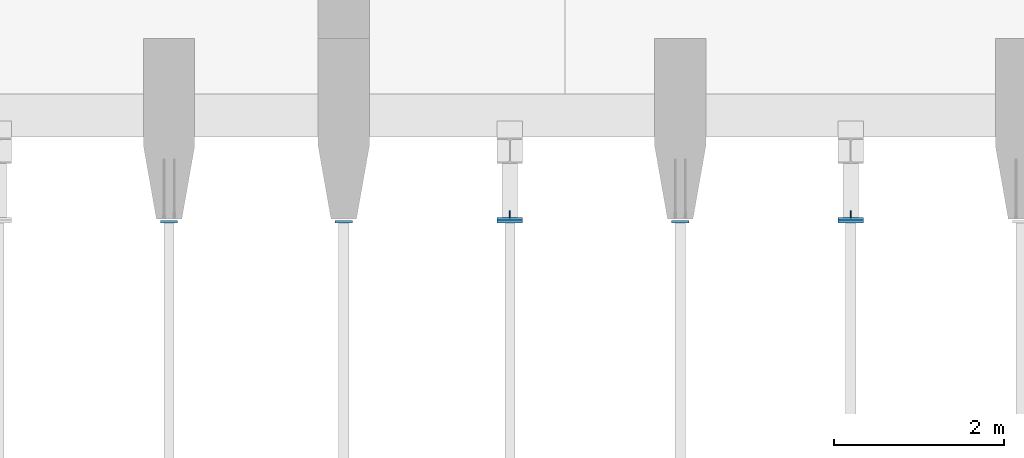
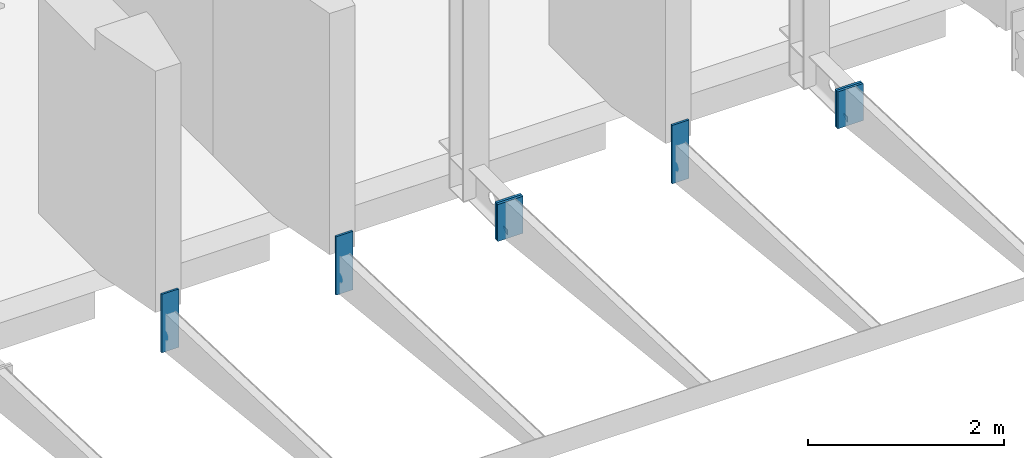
# One storey, part 5 of 27: 9 columns.
"""IFC2X3 building model written with IfcOpenShell, lengths in millimetres."""

from ifc_helpers import new_model, entity, si_unit, converted_unit, derived_unit, direction, frame, frame_2d, origin, origin_2d_with_axis, place, context, subcontext, project, spatial, rectangle, extrude, clip, halfspace, source, transform, mapped, material, type_object, type_shapes, element, save


model = new_model("IFC2X3")

# Units and contexts
model_context = context("Model", 3, precision=0.01, world=origin(), true_north=direction((6.12303176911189e-17, 1.0)))
body_context = subcontext(model_context, "Body", "Model", "MODEL_VIEW")
ifc_project = project(units=[si_unit("LENGTHUNIT", "METRE", prefix="MILLI"), si_unit("AREAUNIT", "SQUARE_METRE"), si_unit("VOLUMEUNIT", "CUBIC_METRE"), converted_unit("PLANEANGLEUNIT", "DEGREE", entity("IfcRatioMeasure", 0.0174532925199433), si_unit("PLANEANGLEUNIT", "RADIAN"), dimensions=[0, 0, 0, 0, 0, 0, 0]), si_unit("MASSUNIT", "GRAM", prefix="KILO"), derived_unit("MASSDENSITYUNIT", [(si_unit("MASSUNIT", "GRAM", prefix="KILO"), 1), (si_unit("LENGTHUNIT", "METRE"), -3)]), si_unit("TIMEUNIT", "SECOND"), si_unit("FREQUENCYUNIT", "HERTZ"), si_unit("THERMODYNAMICTEMPERATUREUNIT", "DEGREE_CELSIUS"), derived_unit("THERMALTRANSMITTANCEUNIT", [(si_unit("MASSUNIT", "GRAM", prefix="KILO"), 1), (si_unit("THERMODYNAMICTEMPERATUREUNIT", "KELVIN"), -1), (si_unit("TIMEUNIT", "SECOND"), -3)]), derived_unit("VOLUMETRICFLOWRATEUNIT", [(si_unit("LENGTHUNIT", "METRE"), 3), (si_unit("TIMEUNIT", "SECOND"), -1)]), si_unit("ELECTRICCURRENTUNIT", "AMPERE"), si_unit("ELECTRICVOLTAGEUNIT", "VOLT"), si_unit("POWERUNIT", "WATT"), si_unit("FORCEUNIT", "NEWTON", prefix="KILO"), si_unit("ILLUMINANCEUNIT", "LUX"), si_unit("LUMINOUSFLUXUNIT", "LUMEN"), si_unit("LUMINOUSINTENSITYUNIT", "CANDELA"), derived_unit("USERDEFINED", [(si_unit("MASSUNIT", "GRAM", prefix="KILO"), -1), (si_unit("LENGTHUNIT", "METRE"), -2), (si_unit("TIMEUNIT", "SECOND"), 3), (si_unit("LUMINOUSFLUXUNIT", "LUMEN"), 1)]), derived_unit("LINEARVELOCITYUNIT", [(si_unit("LENGTHUNIT", "METRE"), 1), (si_unit("TIMEUNIT", "SECOND"), -1)]), si_unit("PRESSUREUNIT", "PASCAL"), derived_unit("USERDEFINED", [(si_unit("LENGTHUNIT", "METRE"), -2), (si_unit("MASSUNIT", "GRAM", prefix="KILO"), 1), (si_unit("TIMEUNIT", "SECOND"), -2)])], contexts=[model_context])

# Site, building, storey
site_placement = place(None, origin())
site = spatial("IfcSite", under=ifc_project, at=site_placement, Name="Default", CompositionType="ELEMENT")
building_placement = place(site_placement, origin())
building = spatial("IfcBuilding", under=site, at=building_placement, Name="niet gebruiken", CompositionType="ELEMENT")
storey_placement = place(building_placement, frame((0.0, 0.0, 6000.0)))
storey = spatial("IfcBuildingStorey", under=building, at=storey_placement, Name="01 eerste verdieping", CompositionType="ELEMENT", Elevation=6000.0)

# Columns
ifc_material = material(Name="NLRS_h2_staal")
column_type_1 = type_object("IfcColumnType", Name="kolom stripstaal RECT_200x25", PredefinedType="COLUMN", material=ifc_material)
shared_shape_1 = source(origin(), body_context, "Body", "SweptSolid", [
    extrude(rectangle(XDim=25.0, YDim=200.0, at=origin_2d_with_axis()), frame((0.0, 0.0, 5418.0), z_axis=(0.0, 0.0, 1.0), x_axis=(0.0, -1.0, 0.0)), (0.0, 0.0, 1.0), 726.999999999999),
])
type_shapes(column_type_1, [shared_shape_1])
for number, where, name in (
    (1, (147800.0, 117.5, -6000.0), "NLRS_28.11_SCO_TLB_stalen kolom stripstaal_gen:kolom stripstaal RECT_200x25"),
    (2, (145750.0, 117.500000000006, -6000.0), "NLRS_28.11_SCO_TLB_stalen kolom stripstaal_gen:kolom stripstaal RECT_200x25"),
    (3, (151750.0, 117.499999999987, -6000.0), "NLRS_28.11_SCO_TLB_stalen kolom stripstaal_gen:kolom stripstaal RECT_200x25"),
):
    element("IfcColumn", number, at=place(storey_placement, frame(where)), inside=storey, type_object=column_type_1, material=ifc_material, Name=name, ObjectType="kolom stripstaal RECT_200x25", context=body_context, shape_type="MappedRepresentation", body=[
        mapped(shared_shape_1, transform((0.0, 0.0, 0.0), scale=1.0)),
    ])
column_type_2 = type_object("IfcColumnType", Name="kolom stripstaal RECT_300x30", PredefinedType="COLUMN", material=ifc_material)
shared_shape_2 = source(origin(), body_context, "Body", "SweptSolid", [
    extrude(rectangle(XDim=30.0, YDim=300.0, at=origin_2d_with_axis()), frame((0.0, 0.0, 5420.0), z_axis=(0.0, 0.0, 1.0), x_axis=(0.0, -1.0, 0.0)), (0.0, 0.0, 1.0), 460.0),
])
type_shapes(column_type_2, [shared_shape_2])
for number, where, name in (
    (4, (153750.0, 120.0, -6000.0), "NLRS_28.11_SCO_TLB_stalen kolom stripstaal_gen:kolom stripstaal RECT_300x30"),
    (5, (153750.0, 150.0, -6000.0), "NLRS_28.11_SCO_TLB_stalen kolom stripstaal_gen:kolom stripstaal RECT_300x30"),
    (6, (149750.0, 120.0, -6000.0), "NLRS_28.11_SCO_TLB_stalen kolom stripstaal_gen:kolom stripstaal RECT_300x30"),
    (7, (149750.0, 150.0, -6000.0), "NLRS_28.11_SCO_TLB_stalen kolom stripstaal_gen:kolom stripstaal RECT_300x30"),
):
    element("IfcColumn", number, at=place(storey_placement, frame(where)), inside=storey, type_object=column_type_2, material=ifc_material, Name=name, ObjectType="kolom stripstaal RECT_300x30", context=body_context, shape_type="MappedRepresentation", body=[
        mapped(shared_shape_2, transform((0.0, 0.0, 0.0), scale=1.0)),
    ])
column_type_3 = type_object("IfcColumnType", Name="kolom stripstaal RECT_80x10", PredefinedType="COLUMN", material=ifc_material)
shared_shape_3 = source(origin(), body_context, "Body", "Clipping", [
    clip(extrude(rectangle(XDim=9.99999999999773, YDim=80.0, at=frame_2d((1.73256964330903e-11, 3.5527136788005e-14), x_axis=(1.0, 0.0))), frame((153750.0, 205.0, 5415.0)), (0.0, 0.0, 1.0), 64.9999999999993), halfspace(frame((153670.0, 185.500105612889, 5415.0001098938), z_axis=(0.0, 0.592802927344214, -0.805347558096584), x_axis=(1.0, 0.0, 0.0)), False)),
])
type_shapes(column_type_3, [shared_shape_3])
column_1_placement = place(storey_placement, frame((0.0, 0.0, -6000.0)))
element("IfcColumn", 8, at=column_1_placement, inside=storey, type_object=column_type_3, material=ifc_material, Name="NLRS_28.11_SCO_TLB_stalen kolom stripstaal_gen:kolom stripstaal RECT_80x10", ObjectType="kolom stripstaal RECT_80x10", context=body_context, shape_type="MappedRepresentation", body=[
    mapped(shared_shape_3, transform((0.0, 0.0, 0.0), scale=1.0)),
])
column_type_4 = type_object("IfcColumnType", Name="kolom stripstaal RECT_80x10", PredefinedType="COLUMN", material=ifc_material)
shared_shape_4 = source(origin(), body_context, "Body", "Clipping", [
    clip(extrude(rectangle(XDim=9.99999999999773, YDim=80.0, at=frame_2d((-1.73256964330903e-11, 3.19744231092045e-14), x_axis=(1.0, 0.0))), frame((149750.0, 205.0, 5415.0)), (0.0, 0.0, 1.0), 64.9999999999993), halfspace(frame((149670.0, 185.5001056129, 5415.0001098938), z_axis=(0.0, 0.592802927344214, -0.805347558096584), x_axis=(1.0, 0.0, 0.0)), False)),
])
type_shapes(column_type_4, [shared_shape_4])
column_2_placement = place(storey_placement, frame((0.0, 0.0, -6000.0)))
element("IfcColumn", 9, at=column_2_placement, inside=storey, type_object=column_type_4, material=ifc_material, Name="NLRS_28.11_SCO_TLB_stalen kolom stripstaal_gen:kolom stripstaal RECT_80x10", ObjectType="kolom stripstaal RECT_80x10", context=body_context, shape_type="MappedRepresentation", body=[
    mapped(shared_shape_4, transform((0.0, 0.0, 0.0), scale=1.0)),
])

save(model, "model.ifc")
